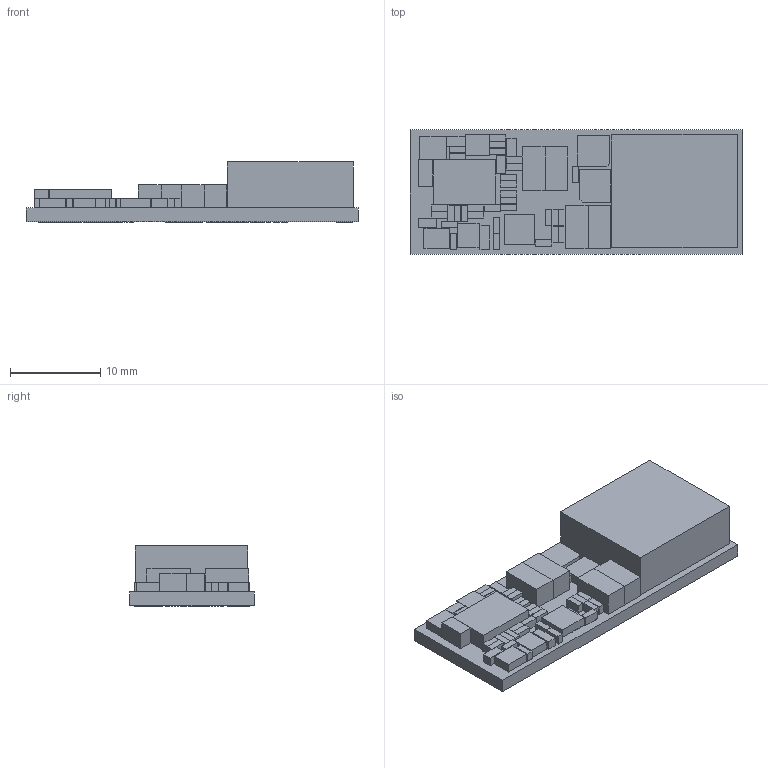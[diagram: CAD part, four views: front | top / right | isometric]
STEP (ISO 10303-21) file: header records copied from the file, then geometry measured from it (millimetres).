
FILE_DESCRIPTION(('FreeCAD Model'),'2;1');
FILE_NAME('Open CASCADE Shape Model','2022-02-04T11:41:33',('Author'),( ''),'Open CASCADE STEP processor 7.5','FreeCAD','Unknown');
FILE_SCHEMA(('AUTOMOTIVE_DESIGN { 1 0 10303 214 1 1 1 1 }'));
Products named in the file (1): Ag7010_R1_STP
Bounding box: 36.88 x 13.87 x 6.68 mm (x, y, z)
Volume: 2005.4 mm3; surface area: 3079.5 mm2
Topology: 208 solids, 208 shells, 1283 faces, 2601 edges, 1734 vertices
Faces by surface type: plane 1267, cylinder 16
Entity records: 68091 total; most frequent: CARTESIAN_POINT 10821, DIRECTION 10403, LINE 7739, VECTOR 7739, ORIENTED_EDGE 5202, PCURVE 5202, DEFINITIONAL_REPRESENTATION 5202, EDGE_CURVE 2601
